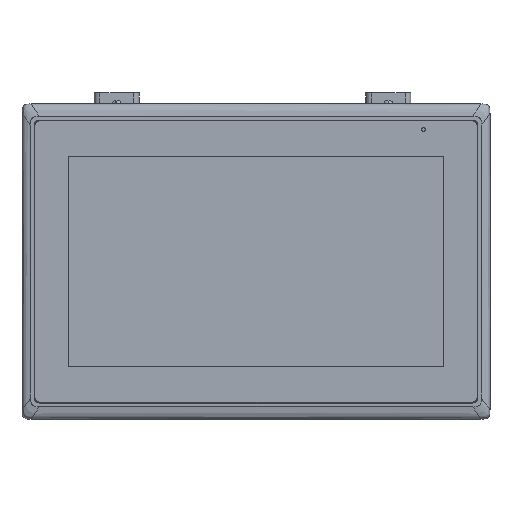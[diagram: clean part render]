
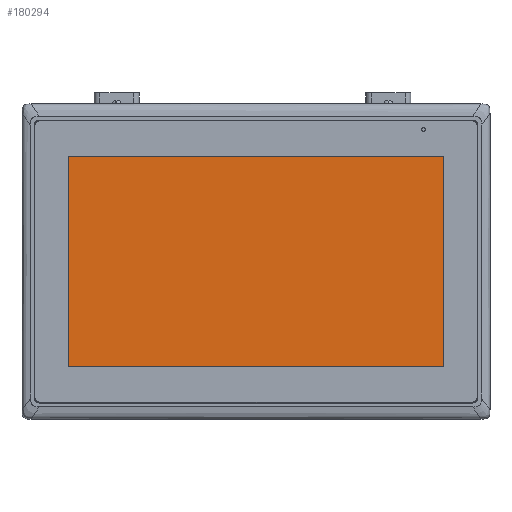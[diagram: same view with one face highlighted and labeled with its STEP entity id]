
A CAD part, top view. The second image highlights one B-rep face of the part: STEP entity #180294.
In plain terms, the highlighted planar face has unit normal (0, 0, 1).
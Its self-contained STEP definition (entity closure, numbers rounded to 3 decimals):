
#5136 = DIRECTION ( 'NONE',  ( -1., 0., 0. ) ) ;
#12982 = CARTESIAN_POINT ( 'NONE',  ( 1.44, -1.17, 3.95 ) ) ;
#26498 = DIRECTION ( 'NONE',  ( 0., -1., 0. ) ) ;
#29329 = CARTESIAN_POINT ( 'NONE',  ( 78.895, -44.515, 3.95 ) ) ;
#29884 = CARTESIAN_POINT ( 'NONE',  ( 78.895, -44.515, 3.95 ) ) ;
#33130 = CARTESIAN_POINT ( 'NONE',  ( -76.015, 42.175, 3.95 ) ) ;
#33874 = VECTOR ( 'NONE', #26498, 1000. ) ;
#42916 = LINE ( 'NONE', #153165, #33874 ) ;
#47292 = EDGE_CURVE ( 'NONE', #97988, #177496, #98559, .T. ) ;
#48819 = VERTEX_POINT ( 'NONE', #90713 ) ;
#51652 = DIRECTION ( 'NONE',  ( 0., 0., 1. ) ) ;
#57984 = LINE ( 'NONE', #95505, #142503 ) ;
#59123 = EDGE_CURVE ( 'NONE', #48819, #97988, #157677, .T. ) ;
#60704 = VECTOR ( 'NONE', #83831, 1000. ) ;
#63350 = DIRECTION ( 'NONE',  ( 0., 1., 0. ) ) ;
#67909 = EDGE_LOOP ( 'NONE', ( #207173, #204882, #196221, #175101 ) ) ;
#79283 = VERTEX_POINT ( 'NONE', #33130 ) ;
#83831 = DIRECTION ( 'NONE',  ( 1., 0., 0. ) ) ;
#88826 = EDGE_CURVE ( 'NONE', #79283, #48819, #42916, .T. ) ;
#90713 = CARTESIAN_POINT ( 'NONE',  ( -76.015, -44.515, 3.95 ) ) ;
#92254 = EDGE_CURVE ( 'NONE', #177496, #79283, #57984, .T. ) ;
#95505 = CARTESIAN_POINT ( 'NONE',  ( 78.895, 42.175, 3.95 ) ) ;
#97988 = VERTEX_POINT ( 'NONE', #191106 ) ;
#98559 = LINE ( 'NONE', #29329, #222323 ) ;
#142503 = VECTOR ( 'NONE', #5136, 1000. ) ;
#146075 = CARTESIAN_POINT ( 'NONE',  ( 78.895, 42.175, 3.95 ) ) ;
#153165 = CARTESIAN_POINT ( 'NONE',  ( -76.015, -44.515, 3.95 ) ) ;
#157268 = FACE_OUTER_BOUND ( 'NONE', #67909, .T. ) ;
#157677 = LINE ( 'NONE', #29884, #60704 ) ;
#175101 = ORIENTED_EDGE ( 'NONE', *, *, #59123, .T. ) ;
#177496 = VERTEX_POINT ( 'NONE', #146075 ) ;
#180294 = ADVANCED_FACE ( 'NONE', ( #157268 ), #213548, .T. ) ;
#186878 = AXIS2_PLACEMENT_3D ( 'NONE', #12982, #51652, #194773 ) ;
#191106 = CARTESIAN_POINT ( 'NONE',  ( 78.895, -44.515, 3.95 ) ) ;
#194773 = DIRECTION ( 'NONE',  ( -1., 0., 0. ) ) ;
#196221 = ORIENTED_EDGE ( 'NONE', *, *, #88826, .T. ) ;
#204882 = ORIENTED_EDGE ( 'NONE', *, *, #92254, .T. ) ;
#207173 = ORIENTED_EDGE ( 'NONE', *, *, #47292, .T. ) ;
#213548 = PLANE ( 'NONE',  #186878 ) ;
#222323 = VECTOR ( 'NONE', #63350, 1000. ) ;
